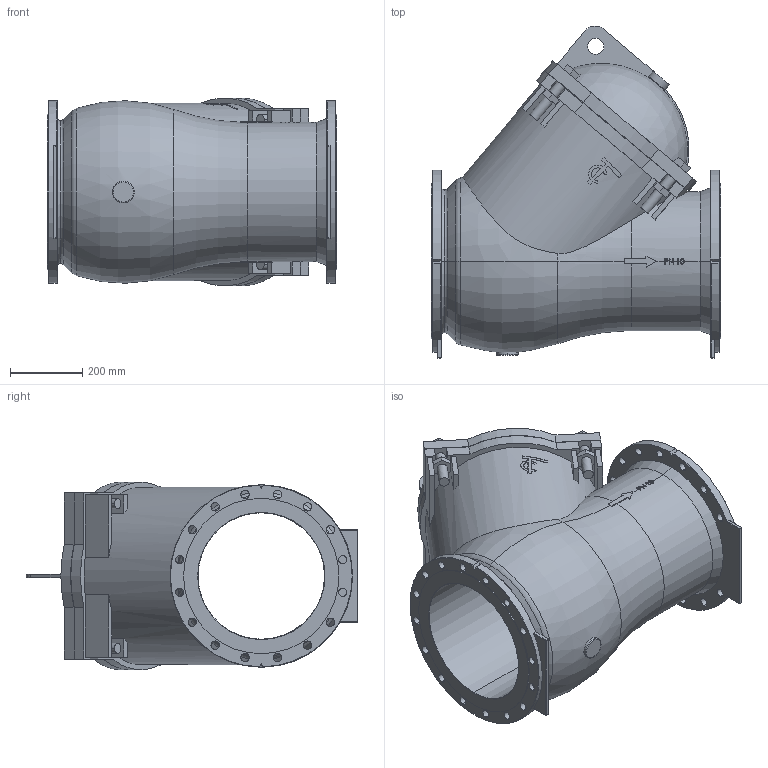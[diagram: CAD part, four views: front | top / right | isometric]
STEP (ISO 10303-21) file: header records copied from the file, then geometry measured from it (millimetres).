
FILE_DESCRIPTION (( 'STEP AP203' ), '1' );
FILE_NAME ('CBL DN350.STEP', '2010-05-12T02:46:58', ( 'farex' ), ( '' ), 'SwSTEP 2.0', 'SolidWorks 2009', '' );
FILE_SCHEMA (( 'CONFIG_CONTROL_DESIGN' ));
Length unit declared in the file: millimetre
Products named in the file (1): CBL DN350
Bounding box: 800 x 918.54 x 520 mm (x, y, z)
Volume: 110946654 mm3; surface area: 3492704.7 mm2
Topology: 5 solids, 5 shells, 538 faces, 1428 edges, 935 vertices
Faces by surface type: plane 268, cylinder 153, bspline 88, cone 14, torus 13, sphere 2
Entity records: 36574 total; most frequent: CARTESIAN_POINT 23599, ORIENTED_EDGE 2856, DIRECTION 2363, EDGE_CURVE 1428, VERTEX_POINT 935, AXIS2_PLACEMENT_3D 827, LINE 709, VECTOR 709
